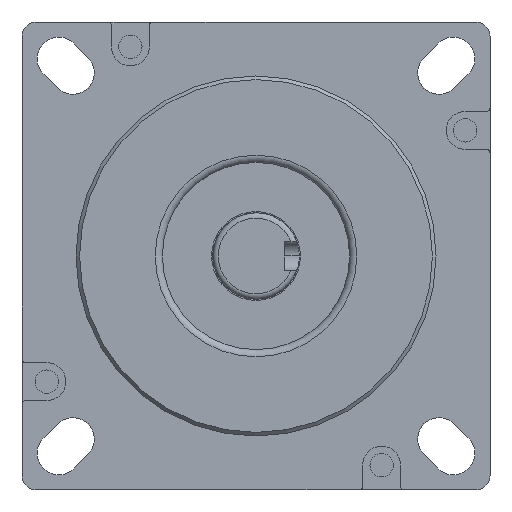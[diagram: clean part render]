
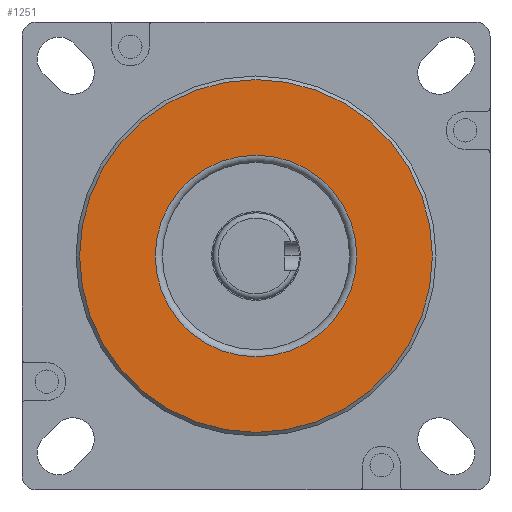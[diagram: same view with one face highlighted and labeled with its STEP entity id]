
A CAD part, front view. The second image highlights one B-rep face of the part: STEP entity #1251.
In plain terms, the highlighted planar face has unit normal (0, -1, 0).
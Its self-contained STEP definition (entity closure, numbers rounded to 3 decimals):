
#248=FACE_BOUND('',#1904,.T.);
#249=FACE_BOUND('',#1905,.T.);
#1251=ADVANCED_FACE('',(#248,#249),#1529,.T.);
#1529=PLANE('',#5236);
#1904=EDGE_LOOP('',(#2273));
#1905=EDGE_LOOP('',(#2274));
#2273=ORIENTED_EDGE('',*,*,#4250,.T.);
#2274=ORIENTED_EDGE('',*,*,#4251,.T.);
#3750=VERTEX_POINT('',#7370);
#3751=VERTEX_POINT('',#7372);
#4250=EDGE_CURVE('',#3750,#3750,#4957,.T.);
#4251=EDGE_CURVE('',#3751,#3751,#4958,.T.);
#4957=CIRCLE('',#5234,49.);
#4958=CIRCLE('',#5235,28.);
#5234=AXIS2_PLACEMENT_3D('',#7369,#5815,#5816);
#5235=AXIS2_PLACEMENT_3D('',#7371,#5817,#5818);
#5236=AXIS2_PLACEMENT_3D('',#7373,#5819,#5820);
#5815=DIRECTION('',(0.,-1.,0.));
#5816=DIRECTION('',(0.,0.,-1.));
#5817=DIRECTION('',(0.,1.,0.));
#5818=DIRECTION('',(1.,0.,0.));
#5819=DIRECTION('',(0.,-1.,0.));
#5820=DIRECTION('',(1.,0.,0.));
#7369=CARTESIAN_POINT('',(720.,-10.,50.8));
#7370=CARTESIAN_POINT('',(720.,-10.,1.8));
#7371=CARTESIAN_POINT('',(720.,-10.,50.8));
#7372=CARTESIAN_POINT('',(748.,-10.,50.8));
#7373=CARTESIAN_POINT('',(720.,-10.,50.8));
